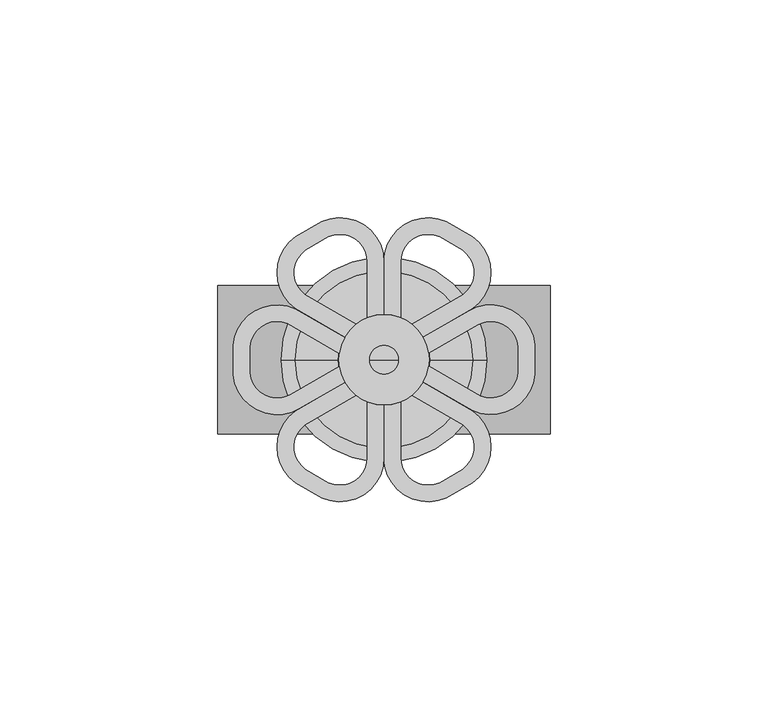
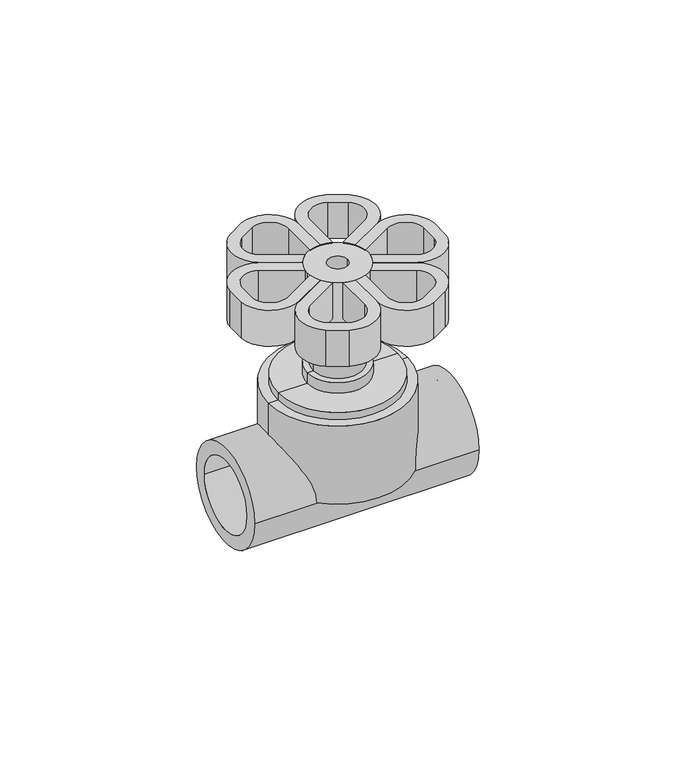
"""IFC4 building model written with IfcOpenShell, lengths in millimetres: valve geometry, Aquatherm - Screw Down Stop Globe Valve : NON-POTABLE."""

from ifc_helpers import new_model, si_unit, point, frame, origin, origin_with_axes, origin_2d, place, context, project, spatial, polyline, circle_curve, trimmed, segment, composite_curve, outline, extrude, source, transform, mapped, element, save
from ifc_brep_helpers import plane_surface, cylinder_surface, revolved_surface, advanced_brep


def valve_d248e69b(model_context):
    return source(origin(), model_context, "Body", "SolidModel", [
        advanced_brep(
        [(19.445201, 11.226692, 57.15), (34.6099022, 3.4437403, 57.15), (34.6331331, -3.4380483, 57.15), (20.3544492, -11.6772462, 57.15), (9.0506259, -5.1509807, 57.15), (10.3130833, -1.4804518, 57.15), (22.0748393, -8.2711048, 57.15), (30.8247999, -3.0585974, 57.15), (30.8433147, 3.0701977, 57.15), (21.350201, 7.9271352, 57.15), (10.2985375, 1.5464544, 57.15), (9.0187886, 5.207, 57.15), (19.445201, 11.226692, 70.104), (9.0187886, 5.207, 70.104), (10.2985375, 1.5464544, 70.104), (21.350201, 7.9271352, 70.104), (30.8185012, 3.0677369, 70.104), (30.8419054, -3.0603017, 70.104), (22.0748393, -8.2711048, 70.104), (10.3130833, -1.4804518, 70.104), (9.0506259, -5.1509807, 70.104), (20.3544492, -11.6772462, 70.104), (34.6160276, -3.436344, 70.104), (34.6347157, 3.4462011, 70.104)],
        [
            (0, 1, circle_curve(frame((24.5166058, 2.4427611, 57.15), z_axis=(0.0, 0.0, -1.0), x_axis=(0.5000000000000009, -0.8660254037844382, 0.0)), 10.1428098)),
            (1, 2, circle_curve(frame((0.0065867, 0.0120369, 57.15), z_axis=(0.0, 0.0, -1.0), x_axis=(0.5000000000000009, -0.8660254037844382, 0.0)), 34.798)),
            (2, 3, circle_curve(frame((24.5231925, -2.4307241, 57.15), z_axis=(0.0, 0.0, -1.0), x_axis=(0.5000000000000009, -0.8660254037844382, 0.0)), 10.1428098)),
            (3, 4),
            (4, 5, circle_curve(frame((0.0065867, 0.0120369, 57.15), z_axis=(0.0, 0.0, 1.0), x_axis=(0.48061422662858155, 0.876932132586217, 0.0)), 10.414)),
            (5, 6),
            (6, 7, circle_curve(frame((24.5231925, -2.4307241, 57.15), z_axis=(0.0, 0.0, 1.0), x_axis=(0.5000000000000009, -0.8660254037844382, 0.0)), 6.3328098)),
            (7, 8, circle_curve(frame((0.0065867, 0.0120369, 57.15), z_axis=(0.0, 0.0, 1.0), x_axis=(0.5000000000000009, -0.8660254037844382, 0.0)), 30.988)),
            (8, 9, circle_curve(frame((24.5166058, 2.4427611, 57.15), z_axis=(0.0, 0.0, 1.0), x_axis=(0.5000000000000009, -0.8660254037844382, 0.0)), 6.3328098)),
            (9, 10),
            (10, 11, circle_curve(frame((0.0, 0.0, 57.15), z_axis=(0.0, 0.0, 1.0), x_axis=(0.5000000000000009, -0.8660254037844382, 0.0)), 10.414)),
            (11, 0),
            (12, 13),
            (13, 14, circle_curve(frame((0.0, 0.0, 70.104), z_axis=(0.0, 0.0, -1.0), x_axis=(0.5000000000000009, -0.8660254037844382, 0.0)), 10.414)),
            (14, 15),
            (15, 16, circle_curve(frame((24.5166058, 2.4427611, 70.104), z_axis=(0.0, 0.0, -1.0), x_axis=(0.5000000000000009, -0.8660254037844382, 0.0)), 6.3328098)),
            (16, 17, circle_curve(frame((0.0065867, 0.0120369, 70.104), z_axis=(0.0, 0.0, -1.0), x_axis=(0.5000000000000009, -0.8660254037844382, 0.0)), 30.988)),
            (17, 18, circle_curve(frame((24.5231925, -2.4307241, 70.104), z_axis=(0.0, 0.0, -1.0), x_axis=(0.5000000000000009, -0.8660254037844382, 0.0)), 6.3328098)),
            (18, 19),
            (19, 20, circle_curve(frame((0.0065867, 0.0120369, 70.104), z_axis=(0.0, 0.0, -1.0), x_axis=(0.48061422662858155, 0.876932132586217, 0.0)), 10.414)),
            (20, 21),
            (21, 22, circle_curve(frame((24.5231925, -2.4307241, 70.104), z_axis=(0.0, 0.0, 1.0), x_axis=(0.5000000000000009, -0.8660254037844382, 0.0)), 10.1428098)),
            (22, 23, circle_curve(frame((0.0065867, 0.0120369, 70.104), z_axis=(0.0, 0.0, 1.0), x_axis=(0.5000000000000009, -0.8660254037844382, 0.0)), 34.798)),
            (23, 12, circle_curve(frame((24.5166058, 2.4427611, 70.104), z_axis=(0.0, 0.0, 1.0), x_axis=(0.5000000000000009, -0.8660254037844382, 0.0)), 10.1428098)),
            (11, 13),
            (12, 0),
            (10, 14),
            (9, 15),
            (8, 16),
            (7, 17),
            (6, 18),
            (5, 19),
            (4, 20),
            (3, 21),
            (2, 22),
            (1, 23),
        ],
        [
            plane_surface(frame((29.5880107, -6.3411699, 57.15), z_axis=(0.0, 0.0, -1.0), x_axis=(-0.8660254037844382, -0.5000000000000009, 0.0))),
            plane_surface(frame((29.5880107, -6.3411699, 70.104), z_axis=(0.0, 0.0, 1.0), x_axis=(0.8660254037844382, 0.5000000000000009, 0.0))),
            plane_surface(frame((9.0187886, 5.207, 57.15), z_axis=(-0.4999999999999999, 0.8660254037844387, 0.0), x_axis=(0.0, 0.0, 1.0))),
            revolved_surface(polyline([(5.207000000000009, -9.018788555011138, 70.104), (5.207000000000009, -9.018788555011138, 57.15)]), (0.0, 0.0, 70.104), (0.0, 0.0, 1.0)),
            plane_surface(frame((21.350201, 7.9271352, 57.15), z_axis=(0.49999999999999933, -0.8660254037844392, 0.0), x_axis=(0.0, 0.0, 1.0))),
            revolved_surface(polyline([(27.683010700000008, -3.041613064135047, 70.104), (27.683010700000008, -3.041613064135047, 57.15)]), (24.5166058, 2.4427611, 70.104), (0.0, 0.0, 1.0)),
            revolved_surface(polyline([(15.500586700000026, -26.82435831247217, 70.104), (15.500586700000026, -26.82435831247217, 57.15)]), (0.0065867, 0.0120369, 70.104), (0.0, 0.0, 1.0)),
            revolved_surface(polyline([(27.689597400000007, -7.915098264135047, 70.104), (27.689597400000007, -7.915098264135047, 57.15)]), (24.5231925, -2.4307241, 70.104), (0.0, 0.0, 1.0)),
            plane_surface(frame((10.3130833, -1.4804518, 57.15), z_axis=(0.49999999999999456, 0.8660254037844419, 0.0), x_axis=(0.0, 0.0, 1.0))),
            revolved_surface(polyline([(5.011703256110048, 9.144408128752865, 70.104), (5.011703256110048, 9.144408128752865, 57.15)]), (0.0065867, 0.0120369, 70.104), (0.0, 0.0, 1.0)),
            plane_surface(frame((20.3544492, -11.6772462, 57.15), z_axis=(-0.4999999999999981, -0.8660254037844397, 0.0), x_axis=(0.0, 0.0, 1.0))),
            cylinder_surface(frame((24.5231925, -2.4307241, 70.104), z_axis=(0.0, 0.0, -1.0), x_axis=(0.5000000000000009, -0.8660254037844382, 0.0)), 10.1428098),
            cylinder_surface(frame((0.0065867, 0.0120369, 70.104), z_axis=(0.0, 0.0, -1.0), x_axis=(0.5000000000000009, -0.8660254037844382, 0.0)), 34.798),
            cylinder_surface(frame((24.5166058, 2.4427611, 70.104), z_axis=(0.0, 0.0, -1.0), x_axis=(0.5000000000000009, -0.8660254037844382, 0.0)), 10.1428098),
        ],
        [
            (0, [[1, 2, 3, 4, 5, 6, 7, 8, 9, 10, 11, 12]]),
            (1, [[13, 14, 15, 16, 17, 18, 19, 20, 21, 22, 23, 24]]),
            (2, [[-12, 25, -13, 26]]),
            (3, [[-11, 27, -14, -25]]),
            (4, [[-10, 28, -15, -27]]),
            (5, [[-9, 29, -16, -28]]),
            (6, [[-8, 30, -17, -29]]),
            (7, [[-7, 31, -18, -30]]),
            (8, [[-6, 32, -19, -31]]),
            (9, [[-5, 33, -20, -32]]),
            (10, [[-4, 34, -21, -33]]),
            (11, [[-3, 35, -22, -34]]),
            (12, [[-2, 36, -23, -35]]),
            (13, [[-1, -26, -24, -36]]),
        ],
    ),
        advanced_brep(
        [(-19.445201, -11.226692, 57.15), (-34.6099022, -3.4437403, 57.15), (-34.6331331, 3.4380483, 57.15), (-20.3544492, 11.6772462, 57.15), (-9.0506259, 5.1509807, 57.15), (-10.3130833, 1.4804518, 57.15), (-22.0748393, 8.2711048, 57.15), (-30.8247999, 3.0585974, 57.15), (-30.8433147, -3.0701977, 57.15), (-21.350201, -7.9271352, 57.15), (-10.2985375, -1.5464544, 57.15), (-9.0187886, -5.207, 57.15), (-19.445201, -11.226692, 70.104), (-9.0187886, -5.207, 70.104), (-10.2985375, -1.5464544, 70.104), (-21.350201, -7.9271352, 70.104), (-30.8185012, -3.0677369, 70.104), (-30.8419054, 3.0603017, 70.104), (-22.0748393, 8.2711048, 70.104), (-10.3130833, 1.4804518, 70.104), (-9.0506259, 5.1509807, 70.104), (-20.3544492, 11.6772462, 70.104), (-34.6160276, 3.436344, 70.104), (-34.6347157, -3.4462011, 70.104)],
        [
            (0, 1, circle_curve(frame((-24.5166058, -2.4427611, 57.15), z_axis=(0.0, 0.0, -1.0), x_axis=(-0.5000000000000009, 0.8660254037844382, 0.0)), 10.1428098)),
            (1, 2, circle_curve(frame((-0.0065867, -0.0120369, 57.15), z_axis=(0.0, 0.0, -1.0), x_axis=(-0.5000000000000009, 0.8660254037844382, 0.0)), 34.798)),
            (2, 3, circle_curve(frame((-24.5231925, 2.4307241, 57.15), z_axis=(0.0, 0.0, -1.0), x_axis=(-0.5000000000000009, 0.8660254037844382, 0.0)), 10.1428098)),
            (3, 4),
            (4, 5, circle_curve(frame((-0.0065867, -0.0120369, 57.15), z_axis=(0.0, 0.0, 1.0), x_axis=(-0.48061422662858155, -0.876932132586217, 0.0)), 10.414)),
            (5, 6),
            (6, 7, circle_curve(frame((-24.5231925, 2.4307241, 57.15), z_axis=(0.0, 0.0, 1.0), x_axis=(-0.5000000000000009, 0.8660254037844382, 0.0)), 6.3328098)),
            (7, 8, circle_curve(frame((-0.0065867, -0.0120369, 57.15), z_axis=(0.0, 0.0, 1.0), x_axis=(-0.5000000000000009, 0.8660254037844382, 0.0)), 30.988)),
            (8, 9, circle_curve(frame((-24.5166058, -2.4427611, 57.15), z_axis=(0.0, 0.0, 1.0), x_axis=(-0.5000000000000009, 0.8660254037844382, 0.0)), 6.3328098)),
            (9, 10),
            (10, 11, circle_curve(frame((0.0, 0.0, 57.15), z_axis=(0.0, 0.0, 1.0), x_axis=(-0.5000000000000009, 0.8660254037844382, 0.0)), 10.414)),
            (11, 0),
            (12, 13),
            (13, 14, circle_curve(frame((0.0, 0.0, 70.104), z_axis=(0.0, 0.0, -1.0), x_axis=(-0.5000000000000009, 0.8660254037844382, 0.0)), 10.414)),
            (14, 15),
            (15, 16, circle_curve(frame((-24.5166058, -2.4427611, 70.104), z_axis=(0.0, 0.0, -1.0), x_axis=(-0.5000000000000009, 0.8660254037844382, 0.0)), 6.3328098)),
            (16, 17, circle_curve(frame((-0.0065867, -0.0120369, 70.104), z_axis=(0.0, 0.0, -1.0), x_axis=(-0.5000000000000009, 0.8660254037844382, 0.0)), 30.988)),
            (17, 18, circle_curve(frame((-24.5231925, 2.4307241, 70.104), z_axis=(0.0, 0.0, -1.0), x_axis=(-0.5000000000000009, 0.8660254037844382, 0.0)), 6.3328098)),
            (18, 19),
            (19, 20, circle_curve(frame((-0.0065867, -0.0120369, 70.104), z_axis=(0.0, 0.0, -1.0), x_axis=(-0.48061422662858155, -0.876932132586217, 0.0)), 10.414)),
            (20, 21),
            (21, 22, circle_curve(frame((-24.5231925, 2.4307241, 70.104), z_axis=(0.0, 0.0, 1.0), x_axis=(-0.5000000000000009, 0.8660254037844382, 0.0)), 10.1428098)),
            (22, 23, circle_curve(frame((-0.0065867, -0.0120369, 70.104), z_axis=(0.0, 0.0, 1.0), x_axis=(-0.5000000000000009, 0.8660254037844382, 0.0)), 34.798)),
            (23, 12, circle_curve(frame((-24.5166058, -2.4427611, 70.104), z_axis=(0.0, 0.0, 1.0), x_axis=(-0.5000000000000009, 0.8660254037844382, 0.0)), 10.1428098)),
            (0, 12),
            (23, 1),
            (22, 2),
            (21, 3),
            (20, 4),
            (19, 5),
            (18, 6),
            (17, 7),
            (16, 8),
            (15, 9),
            (14, 10),
            (13, 11),
        ],
        [
            plane_surface(frame((-29.5880107, 6.3411699, 57.15), z_axis=(0.0, 0.0, -1.0), x_axis=(0.8660254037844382, 0.5000000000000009, 0.0))),
            plane_surface(frame((-29.5880107, 6.3411699, 70.104), z_axis=(0.0, 0.0, 1.0), x_axis=(-0.8660254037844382, -0.5000000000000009, 0.0))),
            cylinder_surface(frame((-24.5166058, -2.4427611, 70.104), z_axis=(0.0, 0.0, -1.0), x_axis=(-0.5000000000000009, 0.8660254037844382, 0.0)), 10.1428098),
            cylinder_surface(frame((-0.0065867, -0.0120369, 70.104), z_axis=(0.0, 0.0, -1.0), x_axis=(-0.5000000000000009, 0.8660254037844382, 0.0)), 34.798),
            cylinder_surface(frame((-24.5231925, 2.4307241, 70.104), z_axis=(0.0, 0.0, -1.0), x_axis=(-0.5000000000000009, 0.8660254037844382, 0.0)), 10.1428098),
            plane_surface(frame((-20.3544492, 11.6772462, 57.15), z_axis=(0.4999999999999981, 0.8660254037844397, 0.0), x_axis=(0.0, 0.0, 1.0))),
            revolved_surface(polyline([(-5.011703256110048, -9.144408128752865, 70.104), (-5.011703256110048, -9.144408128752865, 57.15)]), (-0.0065867, -0.0120369, 70.104), (0.0, 0.0, 1.0)),
            plane_surface(frame((-10.3130833, 1.4804518, 57.15), z_axis=(-0.49999999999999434, -0.8660254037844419, 0.0), x_axis=(0.0, 0.0, 1.0))),
            revolved_surface(polyline([(-27.689597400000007, 7.915098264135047, 70.104), (-27.689597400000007, 7.915098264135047, 57.15)]), (-24.5231925, 2.4307241, 70.104), (0.0, 0.0, 1.0)),
            revolved_surface(polyline([(-15.500586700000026, 26.82435831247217, 70.104), (-15.500586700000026, 26.82435831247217, 57.15)]), (-0.0065867, -0.0120369, 70.104), (0.0, 0.0, 1.0)),
            revolved_surface(polyline([(-27.683010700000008, 3.041613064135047, 70.104), (-27.683010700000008, 3.041613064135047, 57.15)]), (-24.5166058, -2.4427611, 70.104), (0.0, 0.0, 1.0)),
            plane_surface(frame((-21.350201, -7.9271352, 57.15), z_axis=(-0.49999999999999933, 0.866025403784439, 0.0), x_axis=(0.0, 0.0, 1.0))),
            revolved_surface(polyline([(-5.207000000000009, 9.018788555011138, 70.104), (-5.207000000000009, 9.018788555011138, 57.15)]), (0.0, 0.0, 70.104), (0.0, 0.0, 1.0)),
            plane_surface(frame((-9.0187886, -5.207, 57.15), z_axis=(0.49999999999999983, -0.8660254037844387, 0.0), x_axis=(0.0, 0.0, 1.0))),
        ],
        [
            (0, [[1, 2, 3, 4, 5, 6, 7, 8, 9, 10, 11, 12]]),
            (1, [[13, 14, 15, 16, 17, 18, 19, 20, 21, 22, 23, 24]]),
            (2, [[-1, 25, -24, 26]]),
            (3, [[-2, -26, -23, 27]]),
            (4, [[-3, -27, -22, 28]]),
            (5, [[-4, -28, -21, 29]]),
            (6, [[-5, -29, -20, 30]]),
            (7, [[-6, -30, -19, 31]]),
            (8, [[-7, -31, -18, 32]]),
            (9, [[-8, -32, -17, 33]]),
            (10, [[-9, -33, -16, 34]]),
            (11, [[-10, -34, -15, 35]]),
            (12, [[-11, -35, -14, 36]]),
            (13, [[-12, -36, -13, -25]]),
        ],
    ),
        advanced_brep(
        [(0.0, 22.453384, 57.15), (0.0, 10.414, 57.15), (-3.81, 9.6920223, 57.15), (-3.81, 22.453384, 57.15), (-12.7525125, 28.2234734, 57.15), (-18.0712517, 25.1797227, 57.15), (-18.2004066, 14.9818193, 57.15), (-6.4386506, 8.1911663, 57.15), (-8.9861931, 5.2625816, 57.15), (-20.2900164, 11.788847, 57.15), (-20.2839749, 28.2601873, 57.15), (-14.3328602, 31.7176442, 57.15), (0.0, 22.453384, 70.104), (-14.3225845, 31.6949246, 70.104), (-20.2940037, 28.2741489, 70.104), (-20.2900164, 11.788847, 70.104), (-8.9861931, 5.2625816, 70.104), (-6.4386506, 8.1911663, 70.104), (-18.2004066, 14.9818193, 70.104), (-18.061223, 25.165761, 70.104), (-12.7627882, 28.246193, 70.104), (-3.81, 22.453384, 70.104), (-3.81, 9.6920223, 70.104), (0.0, 10.414, 70.104)],
        [
            (0, 1),
            (1, 2, circle_curve(frame((0.0, 0.0, 57.15), z_axis=(0.0, 0.0, 1.0), x_axis=(-1.0, 0.0, 0.0)), 10.414)),
            (2, 3),
            (3, 4, circle_curve(frame((-10.1428098, 22.453384, 57.15), z_axis=(0.0, 0.0, 1.0), x_axis=(-1.0, 0.0, 0.0)), 6.3328098)),
            (4, 5, circle_curve(frame((0.0071309, 0.0117227, 57.15), z_axis=(0.0, 0.0, 1.0), x_axis=(-1.0, 0.0, 0.0)), 30.988)),
            (5, 6, circle_curve(frame((-14.3666651, 20.0223456, 57.15), z_axis=(0.0, 0.0, 1.0), x_axis=(-1.0, 0.0, 0.0)), 6.3328098)),
            (6, 7),
            (7, 8, circle_curve(frame((0.0071309, 0.0117227, 57.15), z_axis=(0.0, 0.0, 1.0), x_axis=(0.519138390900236, 0.8546901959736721, 0.0)), 10.414)),
            (8, 9),
            (9, 10, circle_curve(frame((-14.3666651, 20.0223456, 57.15), z_axis=(0.0, 0.0, -1.0), x_axis=(-1.0, 0.0, 0.0)), 10.1428098)),
            (10, 11, circle_curve(frame((0.0071309, 0.0117227, 57.15), z_axis=(0.0, 0.0, -1.0), x_axis=(-1.0, 0.0, 0.0)), 34.798)),
            (11, 0, circle_curve(frame((-10.1428098, 22.453384, 57.15), z_axis=(0.0, 0.0, -1.0), x_axis=(-1.0, 0.0, 0.0)), 10.1428098)),
            (12, 13, circle_curve(frame((-10.1428098, 22.453384, 70.104), z_axis=(0.0, 0.0, 1.0), x_axis=(-1.0, 0.0, 0.0)), 10.1428098)),
            (13, 14, circle_curve(frame((0.0071309, 0.0117227, 70.104), z_axis=(0.0, 0.0, 1.0), x_axis=(-1.0, 0.0, 0.0)), 34.798)),
            (14, 15, circle_curve(frame((-14.3666651, 20.0223456, 70.104), z_axis=(0.0, 0.0, 1.0), x_axis=(-1.0, 0.0, 0.0)), 10.1428098)),
            (15, 16),
            (16, 17, circle_curve(frame((0.0071309, 0.0117227, 70.104), z_axis=(0.0, 0.0, -1.0), x_axis=(0.519138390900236, 0.8546901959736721, 0.0)), 10.414)),
            (17, 18),
            (18, 19, circle_curve(frame((-14.3666651, 20.0223456, 70.104), z_axis=(0.0, 0.0, -1.0), x_axis=(-1.0, 0.0, 0.0)), 6.3328098)),
            (19, 20, circle_curve(frame((0.0071309, 0.0117227, 70.104), z_axis=(0.0, 0.0, -1.0), x_axis=(-1.0, 0.0, 0.0)), 30.988)),
            (20, 21, circle_curve(frame((-10.1428098, 22.453384, 70.104), z_axis=(0.0, 0.0, -1.0), x_axis=(-1.0, 0.0, 0.0)), 6.3328098)),
            (21, 22),
            (22, 23, circle_curve(frame((0.0, 0.0, 70.104), z_axis=(0.0, 0.0, -1.0), x_axis=(-1.0, 0.0, 0.0)), 10.414)),
            (23, 12),
            (11, 13),
            (12, 0),
            (10, 14),
            (9, 15),
            (8, 16),
            (7, 17),
            (6, 18),
            (5, 19),
            (4, 20),
            (3, 21),
            (2, 22),
            (1, 23),
        ],
        [
            plane_surface(frame((0.0, 8.255, 57.15), z_axis=(0.0, 0.0, -1.0), x_axis=(0.0, -1.0, 0.0))),
            plane_surface(frame((0.0, 8.255, 70.104), z_axis=(0.0, 0.0, 1.0), x_axis=(0.0, 1.0, 0.0))),
            cylinder_surface(frame((-10.1428098, 22.453384, 70.104), z_axis=(0.0, 0.0, -1.0), x_axis=(-1.0, 0.0, 0.0)), 10.1428098),
            cylinder_surface(frame((0.0071309, 0.0117227, 70.104), z_axis=(0.0, 0.0, -1.0), x_axis=(-1.0, 0.0, 0.0)), 34.798),
            cylinder_surface(frame((-14.3666651, 20.0223456, 70.104), z_axis=(0.0, 0.0, -1.0), x_axis=(-1.0, 0.0, 0.0)), 10.1428098),
            plane_surface(frame((-8.9861931, 5.2625816, 57.15), z_axis=(-0.5000000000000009, -0.8660254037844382, 0.0), x_axis=(0.0, 0.0, 1.0))),
            revolved_surface(polyline([(5.413438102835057, 8.912466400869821, 70.104), (5.413438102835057, 8.912466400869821, 57.14999999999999)]), (0.0071309, 0.0117227, 70.104), (0.0, 0.0, 1.0000000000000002)),
            plane_surface(frame((-18.2004066, 14.9818193, 57.15), z_axis=(0.5000000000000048, 0.8660254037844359, 0.0), x_axis=(0.0, 0.0, 1.0))),
            revolved_surface(polyline([(-20.6994749, 20.0223456, 70.104), (-20.6994749, 20.0223456, 57.15)]), (-14.3666651, 20.0223456, 70.104), (0.0, 0.0, 1.0)),
            revolved_surface(polyline([(-30.9808691, 0.0117227, 70.104), (-30.9808691, 0.0117227, 57.15)]), (0.0071309, 0.0117227, 70.104), (0.0, 0.0, 1.0)),
            revolved_surface(polyline([(-16.4756196, 22.453384, 70.104), (-16.4756196, 22.453384, 57.15)]), (-10.1428098, 22.453384, 70.104), (0.0, 0.0, 1.0)),
            plane_surface(frame((-3.81, 9.6920223, 57.15), z_axis=(-1.0, 0.0, 0.0), x_axis=(0.0, 0.0, 1.0))),
            revolved_surface(polyline([(-10.414, 0.0, 70.104), (-10.414, 0.0, 57.15)]), (0.0, 0.0, 70.104), (0.0, 0.0, 1.0)),
            plane_surface(frame((0.0, 22.453384, 57.15), z_axis=(1.0, 0.0, 0.0), x_axis=(0.0, 0.0, 1.0))),
        ],
        [
            (0, [[1, 2, 3, 4, 5, 6, 7, 8, 9, 10, 11, 12]]),
            (1, [[13, 14, 15, 16, 17, 18, 19, 20, 21, 22, 23, 24]]),
            (2, [[-12, 25, -13, 26]]),
            (3, [[-11, 27, -14, -25]]),
            (4, [[-10, 28, -15, -27]]),
            (5, [[-9, 29, -16, -28]]),
            (6, [[-8, 30, -17, -29]]),
            (7, [[-7, 31, -18, -30]]),
            (8, [[-6, 32, -19, -31]]),
            (9, [[-5, 33, -20, -32]]),
            (10, [[-4, 34, -21, -33]]),
            (11, [[-3, 35, -22, -34]]),
            (12, [[-2, 36, -23, -35]]),
            (13, [[-1, -26, -24, -36]]),
        ],
    ),
        advanced_brep(
        [(0.0, 22.453384, 57.15), (14.3225845, 31.6949246, 57.15), (20.2940037, 28.2741489, 57.15), (20.2900164, 11.788847, 57.15), (8.9861931, 5.2625816, 57.15), (6.4386506, 8.1911663, 57.15), (18.2004066, 14.9818193, 57.15), (18.061223, 25.165761, 57.15), (12.7627882, 28.246193, 57.15), (3.81, 22.453384, 57.15), (3.81, 9.6920223, 57.15), (0.0, 10.414, 57.15), (0.0, 22.453384, 70.104), (0.0, 10.414, 70.104), (3.81, 9.6920223, 70.104), (3.81, 22.453384, 70.104), (12.7525125, 28.2234734, 70.104), (18.0712517, 25.1797227, 70.104), (18.2004066, 14.9818193, 70.104), (6.4386506, 8.1911663, 70.104), (8.9861931, 5.2625816, 70.104), (20.2900164, 11.788847, 70.104), (20.2839749, 28.2601873, 70.104), (14.3328602, 31.7176442, 70.104)],
        [
            (0, 1, circle_curve(frame((10.1428098, 22.453384, 57.15), z_axis=(0.0, 0.0, -1.0), x_axis=(1.0, 0.0, 0.0)), 10.1428098)),
            (1, 2, circle_curve(frame((-0.0071309, 0.0117227, 57.15), z_axis=(0.0, 0.0, -1.0), x_axis=(1.0, 0.0, 0.0)), 34.798)),
            (2, 3, circle_curve(frame((14.3666651, 20.0223456, 57.15), z_axis=(0.0, 0.0, -1.0), x_axis=(1.0, 0.0, 0.0)), 10.1428098)),
            (3, 4),
            (4, 5, circle_curve(frame((-0.0071309, 0.0117227, 57.15), z_axis=(0.0, 0.0, 1.0), x_axis=(-0.519138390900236, 0.8546901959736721, 0.0)), 10.414)),
            (5, 6),
            (6, 7, circle_curve(frame((14.3666651, 20.0223456, 57.15), z_axis=(0.0, 0.0, 1.0), x_axis=(1.0, 0.0, 0.0)), 6.3328098)),
            (7, 8, circle_curve(frame((-0.0071309, 0.0117227, 57.15), z_axis=(0.0, 0.0, 1.0), x_axis=(1.0, 0.0, 0.0)), 30.988)),
            (8, 9, circle_curve(frame((10.1428098, 22.453384, 57.15), z_axis=(0.0, 0.0, 1.0), x_axis=(1.0, 0.0, 0.0)), 6.3328098)),
            (9, 10),
            (10, 11, circle_curve(frame((0.0, 0.0, 57.15), z_axis=(0.0, 0.0, 1.0), x_axis=(1.0, 0.0, 0.0)), 10.414)),
            (11, 0),
            (12, 13),
            (13, 14, circle_curve(frame((0.0, 0.0, 70.104), z_axis=(0.0, 0.0, -1.0), x_axis=(1.0, 0.0, 0.0)), 10.414)),
            (14, 15),
            (15, 16, circle_curve(frame((10.1428098, 22.453384, 70.104), z_axis=(0.0, 0.0, -1.0), x_axis=(1.0, 0.0, 0.0)), 6.3328098)),
            (16, 17, circle_curve(frame((-0.0071309, 0.0117227, 70.104), z_axis=(0.0, 0.0, -1.0), x_axis=(1.0, 0.0, 0.0)), 30.988)),
            (17, 18, circle_curve(frame((14.3666651, 20.0223456, 70.104), z_axis=(0.0, 0.0, -1.0), x_axis=(1.0, 0.0, 0.0)), 6.3328098)),
            (18, 19),
            (19, 20, circle_curve(frame((-0.0071309, 0.0117227, 70.104), z_axis=(0.0, 0.0, -1.0), x_axis=(-0.519138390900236, 0.8546901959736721, 0.0)), 10.414)),
            (20, 21),
            (21, 22, circle_curve(frame((14.3666651, 20.0223456, 70.104), z_axis=(0.0, 0.0, 1.0), x_axis=(1.0, 0.0, 0.0)), 10.1428098)),
            (22, 23, circle_curve(frame((-0.0071309, 0.0117227, 70.104), z_axis=(0.0, 0.0, 1.0), x_axis=(1.0, 0.0, 0.0)), 34.798)),
            (23, 12, circle_curve(frame((10.1428098, 22.453384, 70.104), z_axis=(0.0, 0.0, 1.0), x_axis=(1.0, 0.0, 0.0)), 10.1428098)),
            (11, 13),
            (12, 0),
            (10, 14),
            (9, 15),
            (8, 16),
            (7, 17),
            (6, 18),
            (5, 19),
            (4, 20),
            (3, 21),
            (2, 22),
            (1, 23),
        ],
        [
            plane_surface(frame((20.2856196, 22.453384, 57.15), z_axis=(0.0, 0.0, -1.0), x_axis=(0.0, -1.0, 0.0))),
            plane_surface(frame((20.2856196, 22.453384, 70.104), z_axis=(0.0, 0.0, 1.0), x_axis=(0.0, 1.0, 0.0))),
            plane_surface(frame((0.0, 10.414, 57.15), z_axis=(-1.0, 0.0, 0.0), x_axis=(0.0, 0.0, 1.0))),
            revolved_surface(polyline([(10.414, 0.0, 70.104), (10.414, 0.0, 57.15)]), (0.0, 0.0, 70.104), (0.0, 0.0, 1.0)),
            plane_surface(frame((3.81, 22.453384, 57.15), z_axis=(1.0, 0.0, 0.0), x_axis=(0.0, 0.0, 1.0))),
            revolved_surface(polyline([(16.4756196, 22.453384, 70.104), (16.4756196, 22.453384, 57.15)]), (10.1428098, 22.453384, 70.104), (0.0, 0.0, 1.0)),
            revolved_surface(polyline([(30.9808691, 0.0117227, 70.104), (30.9808691, 0.0117227, 57.15)]), (-0.0071309, 0.0117227, 70.104), (0.0, 0.0, 1.0)),
            revolved_surface(polyline([(20.6994749, 20.0223456, 70.104), (20.6994749, 20.0223456, 57.15)]), (14.3666651, 20.0223456, 70.104), (0.0, 0.0, 1.0)),
            plane_surface(frame((6.4386506, 8.1911663, 57.15), z_axis=(-0.5000000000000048, 0.8660254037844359, 0.0), x_axis=(0.0, 0.0, 1.0))),
            revolved_surface(polyline([(-5.413438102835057, 8.912466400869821, 70.104), (-5.413438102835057, 8.912466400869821, 57.14999999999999)]), (-0.0071309, 0.0117227, 70.104), (0.0, 0.0, 1.0000000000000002)),
            plane_surface(frame((20.2900164, 11.788847, 57.15), z_axis=(0.500000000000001, -0.866025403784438, 0.0), x_axis=(0.0, 0.0, 1.0))),
            cylinder_surface(frame((14.3666651, 20.0223456, 70.104), z_axis=(0.0, 0.0, -1.0), x_axis=(1.0, 0.0, 0.0)), 10.1428098),
            cylinder_surface(frame((-0.0071309, 0.0117227, 70.104), z_axis=(0.0, 0.0, -1.0), x_axis=(1.0, 0.0, 0.0)), 34.798),
            cylinder_surface(frame((10.1428098, 22.453384, 70.104), z_axis=(0.0, 0.0, -1.0), x_axis=(1.0, 0.0, 0.0)), 10.1428098),
        ],
        [
            (0, [[1, 2, 3, 4, 5, 6, 7, 8, 9, 10, 11, 12]]),
            (1, [[13, 14, 15, 16, 17, 18, 19, 20, 21, 22, 23, 24]]),
            (2, [[-12, 25, -13, 26]]),
            (3, [[-11, 27, -14, -25]]),
            (4, [[-10, 28, -15, -27]]),
            (5, [[-9, 29, -16, -28]]),
            (6, [[-8, 30, -17, -29]]),
            (7, [[-7, 31, -18, -30]]),
            (8, [[-6, 32, -19, -31]]),
            (9, [[-5, 33, -20, -32]]),
            (10, [[-4, 34, -21, -33]]),
            (11, [[-3, 35, -22, -34]]),
            (12, [[-2, 36, -23, -35]]),
            (13, [[-1, -26, -24, -36]]),
        ],
    ),
        advanced_brep(
        [(0.0, -22.453384, 57.15), (-14.3225845, -31.6949246, 57.15), (-20.2940037, -28.2741489, 57.15), (-20.2900164, -11.788847, 57.15), (-8.9861931, -5.2625816, 57.15), (-6.4386506, -8.1911663, 57.15), (-18.2004066, -14.9818193, 57.15), (-18.061223, -25.165761, 57.15), (-12.7627882, -28.246193, 57.15), (-3.81, -22.453384, 57.15), (-3.81, -9.6920223, 57.15), (0.0, -10.414, 57.15), (0.0, -22.453384, 70.104), (0.0, -10.414, 70.104), (-3.81, -9.6920223, 70.104), (-3.81, -22.453384, 70.104), (-12.7525125, -28.2234734, 70.104), (-18.0712517, -25.1797227, 70.104), (-18.2004066, -14.9818193, 70.104), (-6.4386506, -8.1911663, 70.104), (-8.9861931, -5.2625816, 70.104), (-20.2900164, -11.788847, 70.104), (-20.2839749, -28.2601873, 70.104), (-14.3328602, -31.7176442, 70.104)],
        [
            (0, 1, circle_curve(frame((-10.1428098, -22.453384, 57.15), z_axis=(0.0, 0.0, -1.0), x_axis=(-1.0, 0.0, 0.0)), 10.1428098)),
            (1, 2, circle_curve(frame((0.0071309, -0.0117227, 57.15), z_axis=(0.0, 0.0, -1.0), x_axis=(-1.0, 0.0, 0.0)), 34.798)),
            (2, 3, circle_curve(frame((-14.3666651, -20.0223456, 57.15), z_axis=(0.0, 0.0, -1.0), x_axis=(-1.0, 0.0, 0.0)), 10.1428098)),
            (3, 4),
            (4, 5, circle_curve(frame((0.0071309, -0.0117227, 57.15), z_axis=(0.0, 0.0, 1.0), x_axis=(0.519138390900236, -0.8546901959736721, 0.0)), 10.414)),
            (5, 6),
            (6, 7, circle_curve(frame((-14.3666651, -20.0223456, 57.15), z_axis=(0.0, 0.0, 1.0), x_axis=(-1.0, 0.0, 0.0)), 6.3328098)),
            (7, 8, circle_curve(frame((0.0071309, -0.0117227, 57.15), z_axis=(0.0, 0.0, 1.0), x_axis=(-1.0, 0.0, 0.0)), 30.988)),
            (8, 9, circle_curve(frame((-10.1428098, -22.453384, 57.15), z_axis=(0.0, 0.0, 1.0), x_axis=(-1.0, 0.0, 0.0)), 6.3328098)),
            (9, 10),
            (10, 11, circle_curve(frame((0.0, 0.0, 57.15), z_axis=(0.0, 0.0, 1.0), x_axis=(-1.0, 0.0, 0.0)), 10.414)),
            (11, 0),
            (12, 13),
            (13, 14, circle_curve(frame((0.0, 0.0, 70.104), z_axis=(0.0, 0.0, -1.0), x_axis=(-1.0, 0.0, 0.0)), 10.414)),
            (14, 15),
            (15, 16, circle_curve(frame((-10.1428098, -22.453384, 70.104), z_axis=(0.0, 0.0, -1.0), x_axis=(-1.0, 0.0, 0.0)), 6.3328098)),
            (16, 17, circle_curve(frame((0.0071309, -0.0117227, 70.104), z_axis=(0.0, 0.0, -1.0), x_axis=(-1.0, 0.0, 0.0)), 30.988)),
            (17, 18, circle_curve(frame((-14.3666651, -20.0223456, 70.104), z_axis=(0.0, 0.0, -1.0), x_axis=(-1.0, 0.0, 0.0)), 6.3328098)),
            (18, 19),
            (19, 20, circle_curve(frame((0.0071309, -0.0117227, 70.104), z_axis=(0.0, 0.0, -1.0), x_axis=(0.519138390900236, -0.8546901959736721, 0.0)), 10.414)),
            (20, 21),
            (21, 22, circle_curve(frame((-14.3666651, -20.0223456, 70.104), z_axis=(0.0, 0.0, 1.0), x_axis=(-1.0, 0.0, 0.0)), 10.1428098)),
            (22, 23, circle_curve(frame((0.0071309, -0.0117227, 70.104), z_axis=(0.0, 0.0, 1.0), x_axis=(-1.0, 0.0, 0.0)), 34.798)),
            (23, 12, circle_curve(frame((-10.1428098, -22.453384, 70.104), z_axis=(0.0, 0.0, 1.0), x_axis=(-1.0, 0.0, 0.0)), 10.1428098)),
            (0, 12),
            (23, 1),
            (22, 2),
            (21, 3),
            (20, 4),
            (19, 5),
            (18, 6),
            (17, 7),
            (16, 8),
            (15, 9),
            (14, 10),
            (13, 11),
        ],
        [
            plane_surface(frame((-20.2856196, -22.453384, 57.15), z_axis=(0.0, 0.0, -1.0), x_axis=(0.0, 1.0, 0.0))),
            plane_surface(frame((-20.2856196, -22.453384, 70.104), z_axis=(0.0, 0.0, 1.0), x_axis=(0.0, -1.0, 0.0))),
            cylinder_surface(frame((-10.1428098, -22.453384, 70.104), z_axis=(0.0, 0.0, -1.0), x_axis=(-1.0, 0.0, 0.0)), 10.1428098),
            cylinder_surface(frame((0.0071309, -0.0117227, 70.104), z_axis=(0.0, 0.0, -1.0), x_axis=(-1.0, 0.0, 0.0)), 34.798),
            cylinder_surface(frame((-14.3666651, -20.0223456, 70.104), z_axis=(0.0, 0.0, -1.0), x_axis=(-1.0, 0.0, 0.0)), 10.1428098),
            plane_surface(frame((-20.2900164, -11.788847, 57.15), z_axis=(-0.500000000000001, 0.866025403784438, 0.0), x_axis=(0.0, 0.0, 1.0))),
            revolved_surface(polyline([(5.413438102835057, -8.912466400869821, 70.104), (5.413438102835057, -8.912466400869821, 57.14999999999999)]), (0.0071309, -0.0117227, 70.104), (0.0, 0.0, 1.0000000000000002)),
            plane_surface(frame((-6.4386506, -8.1911663, 57.15), z_axis=(0.5000000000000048, -0.8660254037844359, 0.0), x_axis=(0.0, 0.0, 1.0))),
            revolved_surface(polyline([(-20.6994749, -20.0223456, 70.104), (-20.6994749, -20.0223456, 57.15)]), (-14.3666651, -20.0223456, 70.104), (0.0, 0.0, 1.0)),
            revolved_surface(polyline([(-30.9808691, -0.0117227, 70.104), (-30.9808691, -0.0117227, 57.15)]), (0.0071309, -0.0117227, 70.104), (0.0, 0.0, 1.0)),
            revolved_surface(polyline([(-16.4756196, -22.453384, 70.104), (-16.4756196, -22.453384, 57.15)]), (-10.1428098, -22.453384, 70.104), (0.0, 0.0, 1.0)),
            plane_surface(frame((-3.81, -22.453384, 57.15), z_axis=(-1.0, 0.0, 0.0), x_axis=(0.0, 0.0, 1.0))),
            revolved_surface(polyline([(-10.414, 0.0, 70.104), (-10.414, 0.0, 57.15)]), (0.0, 0.0, 70.104), (0.0, 0.0, 1.0)),
            plane_surface(frame((0.0, -10.414, 57.15), z_axis=(1.0, 0.0, 0.0), x_axis=(0.0, 0.0, 1.0))),
        ],
        [
            (0, [[1, 2, 3, 4, 5, 6, 7, 8, 9, 10, 11, 12]]),
            (1, [[13, 14, 15, 16, 17, 18, 19, 20, 21, 22, 23, 24]]),
            (2, [[-1, 25, -24, 26]]),
            (3, [[-2, -26, -23, 27]]),
            (4, [[-3, -27, -22, 28]]),
            (5, [[-4, -28, -21, 29]]),
            (6, [[-5, -29, -20, 30]]),
            (7, [[-6, -30, -19, 31]]),
            (8, [[-7, -31, -18, 32]]),
            (9, [[-8, -32, -17, 33]]),
            (10, [[-9, -33, -16, 34]]),
            (11, [[-10, -34, -15, 35]]),
            (12, [[-11, -35, -14, 36]]),
            (13, [[-12, -36, -13, -25]]),
        ],
    ),
        advanced_brep(
        [(0.0, -22.453384, 57.15), (0.0, -10.414, 57.15), (3.81, -9.6920223, 57.15), (3.81, -22.453384, 57.15), (12.7525125, -28.2234734, 57.15), (18.0712517, -25.1797227, 57.15), (18.2004066, -14.9818193, 57.15), (6.4386506, -8.1911663, 57.15), (8.9861931, -5.2625816, 57.15), (20.2900164, -11.788847, 57.15), (20.2839749, -28.2601873, 57.15), (14.3328602, -31.7176442, 57.15), (0.0, -22.453384, 70.104), (14.3225845, -31.6949246, 70.104), (20.2940037, -28.2741489, 70.104), (20.2900164, -11.788847, 70.104), (8.9861931, -5.2625816, 70.104), (6.4386506, -8.1911663, 70.104), (18.2004066, -14.9818193, 70.104), (18.061223, -25.165761, 70.104), (12.7627882, -28.246193, 70.104), (3.81, -22.453384, 70.104), (3.81, -9.6920223, 70.104), (0.0, -10.414, 70.104)],
        [
            (0, 1),
            (1, 2, circle_curve(frame((0.0, 0.0, 57.15), z_axis=(0.0, 0.0, 1.0), x_axis=(1.0, 0.0, 0.0)), 10.414)),
            (2, 3),
            (3, 4, circle_curve(frame((10.1428098, -22.453384, 57.15), z_axis=(0.0, 0.0, 1.0), x_axis=(1.0, 0.0, 0.0)), 6.3328098)),
            (4, 5, circle_curve(frame((-0.0071309, -0.0117227, 57.15), z_axis=(0.0, 0.0, 1.0), x_axis=(1.0, 0.0, 0.0)), 30.988)),
            (5, 6, circle_curve(frame((14.3666651, -20.0223456, 57.15), z_axis=(0.0, 0.0, 1.0), x_axis=(1.0, 0.0, 0.0)), 6.3328098)),
            (6, 7),
            (7, 8, circle_curve(frame((-0.0071309, -0.0117227, 57.15), z_axis=(0.0, 0.0, 1.0), x_axis=(-0.519138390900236, -0.8546901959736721, 0.0)), 10.414)),
            (8, 9),
            (9, 10, circle_curve(frame((14.3666651, -20.0223456, 57.15), z_axis=(0.0, 0.0, -1.0), x_axis=(1.0, 0.0, 0.0)), 10.1428098)),
            (10, 11, circle_curve(frame((-0.0071309, -0.0117227, 57.15), z_axis=(0.0, 0.0, -1.0), x_axis=(1.0, 0.0, 0.0)), 34.798)),
            (11, 0, circle_curve(frame((10.1428098, -22.453384, 57.15), z_axis=(0.0, 0.0, -1.0), x_axis=(1.0, 0.0, 0.0)), 10.1428098)),
            (12, 13, circle_curve(frame((10.1428098, -22.453384, 70.104), z_axis=(0.0, 0.0, 1.0), x_axis=(1.0, 0.0, 0.0)), 10.1428098)),
            (13, 14, circle_curve(frame((-0.0071309, -0.0117227, 70.104), z_axis=(0.0, 0.0, 1.0), x_axis=(1.0, 0.0, 0.0)), 34.798)),
            (14, 15, circle_curve(frame((14.3666651, -20.0223456, 70.104), z_axis=(0.0, 0.0, 1.0), x_axis=(1.0, 0.0, 0.0)), 10.1428098)),
            (15, 16),
            (16, 17, circle_curve(frame((-0.0071309, -0.0117227, 70.104), z_axis=(0.0, 0.0, -1.0), x_axis=(-0.519138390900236, -0.8546901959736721, 0.0)), 10.414)),
            (17, 18),
            (18, 19, circle_curve(frame((14.3666651, -20.0223456, 70.104), z_axis=(0.0, 0.0, -1.0), x_axis=(1.0, 0.0, 0.0)), 6.3328098)),
            (19, 20, circle_curve(frame((-0.0071309, -0.0117227, 70.104), z_axis=(0.0, 0.0, -1.0), x_axis=(1.0, 0.0, 0.0)), 30.988)),
            (20, 21, circle_curve(frame((10.1428098, -22.453384, 70.104), z_axis=(0.0, 0.0, -1.0), x_axis=(1.0, 0.0, 0.0)), 6.3328098)),
            (21, 22),
            (22, 23, circle_curve(frame((0.0, 0.0, 70.104), z_axis=(0.0, 0.0, -1.0), x_axis=(1.0, 0.0, 0.0)), 10.414)),
            (23, 12),
            (0, 12),
            (23, 1),
            (22, 2),
            (21, 3),
            (20, 4),
            (19, 5),
            (18, 6),
            (17, 7),
            (16, 8),
            (15, 9),
            (14, 10),
            (13, 11),
        ],
        [
            plane_surface(frame((0.0, -8.255, 57.15), z_axis=(0.0, 0.0, -1.0), x_axis=(0.0, 1.0, 0.0))),
            plane_surface(frame((0.0, -8.255, 70.104), z_axis=(0.0, 0.0, 1.0), x_axis=(0.0, -1.0, 0.0))),
            plane_surface(frame((0.0, -22.453384, 57.15), z_axis=(-1.0, 0.0, 0.0), x_axis=(0.0, 0.0, 1.0))),
            revolved_surface(polyline([(10.414, 0.0, 70.104), (10.414, 0.0, 57.15)]), (0.0, 0.0, 70.104), (0.0, 0.0, 1.0)),
            plane_surface(frame((3.81, -9.6920223, 57.15), z_axis=(1.0, 0.0, 0.0), x_axis=(0.0, 0.0, 1.0))),
            revolved_surface(polyline([(16.4756196, -22.453384, 70.104), (16.4756196, -22.453384, 57.15)]), (10.1428098, -22.453384, 70.104), (0.0, 0.0, 1.0)),
            revolved_surface(polyline([(30.9808691, -0.0117227, 70.104), (30.9808691, -0.0117227, 57.15)]), (-0.0071309, -0.0117227, 70.104), (0.0, 0.0, 1.0)),
            revolved_surface(polyline([(20.6994749, -20.0223456, 70.104), (20.6994749, -20.0223456, 57.15)]), (14.3666651, -20.0223456, 70.104), (0.0, 0.0, 1.0)),
            plane_surface(frame((18.2004066, -14.9818193, 57.15), z_axis=(-0.5000000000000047, -0.866025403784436, 0.0), x_axis=(0.0, 0.0, 1.0))),
            revolved_surface(polyline([(-5.413438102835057, -8.912466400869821, 70.104), (-5.413438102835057, -8.912466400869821, 57.14999999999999)]), (-0.0071309, -0.0117227, 70.104), (0.0, 0.0, 1.0000000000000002)),
            plane_surface(frame((8.9861931, -5.2625816, 57.15), z_axis=(0.5000000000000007, 0.8660254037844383, 0.0), x_axis=(0.0, 0.0, 1.0))),
            cylinder_surface(frame((14.3666651, -20.0223456, 70.104), z_axis=(0.0, 0.0, -1.0), x_axis=(1.0, 0.0, 0.0)), 10.1428098),
            cylinder_surface(frame((-0.0071309, -0.0117227, 70.104), z_axis=(0.0, 0.0, -1.0), x_axis=(1.0, 0.0, 0.0)), 34.798),
            cylinder_surface(frame((10.1428098, -22.453384, 70.104), z_axis=(0.0, 0.0, -1.0), x_axis=(1.0, 0.0, 0.0)), 10.1428098),
        ],
        [
            (0, [[1, 2, 3, 4, 5, 6, 7, 8, 9, 10, 11, 12]]),
            (1, [[13, 14, 15, 16, 17, 18, 19, 20, 21, 22, 23, 24]]),
            (2, [[-1, 25, -24, 26]]),
            (3, [[-2, -26, -23, 27]]),
            (4, [[-3, -27, -22, 28]]),
            (5, [[-4, -28, -21, 29]]),
            (6, [[-5, -29, -20, 30]]),
            (7, [[-6, -30, -19, 31]]),
            (8, [[-7, -31, -18, 32]]),
            (9, [[-8, -32, -17, 33]]),
            (10, [[-9, -33, -16, 34]]),
            (11, [[-10, -34, -15, 35]]),
            (12, [[-11, -35, -14, 36]]),
            (13, [[-12, -36, -13, -25]]),
        ],
    ),
        extrude(outline(composite_curve([segment(trimmed(circle_curve(origin_2d(), 10.414), [point((-10.414, 0.0))], [point((10.414, 0.0))], False, "CARTESIAN"), True, "CONTINUOUS"), segment(trimmed(circle_curve(origin_2d(), 10.414), [point((10.414, 0.0))], [point((-10.414, 0.0))], False, "CARTESIAN"), True, "CONTINUOUS")], self_intersect=False), holes=[composite_curve([segment(trimmed(circle_curve(origin_2d(), 3.302), [point((-3.302, 0.0))], [point((3.302, 0.0))], True, "CARTESIAN"), True, "CONTINUOUS"), segment(trimmed(circle_curve(origin_2d(), 3.302), [point((3.302, 0.0))], [point((-3.302, 0.0))], True, "CARTESIAN"), True, "CONTINUOUS")], self_intersect=False)]), frame((0.0, 0.0, 55.118), z_axis=(0.0, 0.0, 1.0), x_axis=(1.0, 0.0, 0.0)), (0.0, 0.0, 1.0), 14.986),
        advanced_brep(
        [(-20.32, 0.0, 30.48), (20.32, 0.0, 30.48), (20.32, 0.0, 27.94), (-20.32, 0.0, 27.94), (-10.445896, 0.0, 30.48), (10.445896, 0.0, 30.48), (-10.445896, 0.0, 34.29), (10.445896, 0.0, 34.29), (-8.413896, 0.0, 34.29), (8.413896, 0.0, 34.29), (-8.413896, 0.0, 48.26), (8.413896, 0.0, 48.26), (-5.619896, 0.0, 48.26), (5.619896, 0.0, 48.26), (-5.619896, 0.0, 55.118), (5.619896, 0.0, 55.118), (0.0, 0.0, 55.118), (0.0, 0.0, 27.94)],
        [
            (0, 1, circle_curve(frame((0.0, 0.0, 30.48), z_axis=(0.0, 0.0, -1.0), x_axis=(1.0, 0.0, 0.0)), 20.32)),
            (1, 2),
            (2, 3, circle_curve(frame((0.0, 0.0, 27.94), z_axis=(0.0, 0.0, 1.0), x_axis=(1.0, 0.0, 0.0)), 20.32)),
            (3, 0),
            (1, 0, circle_curve(frame((0.0, 0.0, 30.48), z_axis=(0.0, 0.0, -1.0), x_axis=(1.0, 0.0, 0.0)), 20.32)),
            (3, 2, circle_curve(frame((0.0, 0.0, 27.94), z_axis=(0.0, 0.0, 1.0), x_axis=(1.0, 0.0, 0.0)), 20.32)),
            (4, 5, circle_curve(frame((0.0, 0.0, 30.48), z_axis=(0.0, 0.0, -1.0), x_axis=(1.0, 0.0, 0.0)), 10.445896)),
            (5, 1),
            (0, 4),
            (5, 4, circle_curve(frame((0.0, 0.0, 30.48), z_axis=(0.0, 0.0, -1.0), x_axis=(1.0, 0.0, 0.0)), 10.445896)),
            (6, 7, circle_curve(frame((0.0, 0.0, 34.29), z_axis=(0.0, 0.0, -1.0), x_axis=(1.0, 0.0, 0.0)), 10.445896)),
            (7, 5),
            (4, 6),
            (7, 6, circle_curve(frame((0.0, 0.0, 34.29), z_axis=(0.0, 0.0, -1.0), x_axis=(1.0, 0.0, 0.0)), 10.445896)),
            (8, 9, circle_curve(frame((0.0, 0.0, 34.29), z_axis=(0.0, 0.0, -1.0), x_axis=(1.0, 0.0, 0.0)), 8.413896)),
            (9, 7),
            (6, 8),
            (9, 8, circle_curve(frame((0.0, 0.0, 34.29), z_axis=(0.0, 0.0, -1.0), x_axis=(1.0, 0.0, 0.0)), 8.413896)),
            (10, 11, circle_curve(frame((0.0, 0.0, 48.26), z_axis=(0.0, 0.0, -1.0), x_axis=(1.0, 0.0, 0.0)), 8.413896)),
            (11, 9),
            (8, 10),
            (11, 10, circle_curve(frame((0.0, 0.0, 48.26), z_axis=(0.0, 0.0, -1.0), x_axis=(1.0, 0.0, 0.0)), 8.413896)),
            (12, 13, circle_curve(frame((0.0, 0.0, 48.26), z_axis=(0.0, 0.0, -1.0), x_axis=(1.0, 0.0, 0.0)), 5.619896)),
            (13, 11),
            (10, 12),
            (13, 12, circle_curve(frame((0.0, 0.0, 48.26), z_axis=(0.0, 0.0, -1.0), x_axis=(1.0, 0.0, 0.0)), 5.619896)),
            (14, 15, circle_curve(frame((0.0, 0.0, 55.118), z_axis=(0.0, 0.0, -1.0), x_axis=(1.0, 0.0, 0.0)), 5.619896)),
            (15, 13),
            (12, 14),
            (15, 14, circle_curve(frame((0.0, 0.0, 55.118), z_axis=(0.0, 0.0, -1.0), x_axis=(1.0, 0.0, 0.0)), 5.619896)),
            (16, 15),
            (14, 16),
            (2, 17),
            (17, 3),
        ],
        [
            cylinder_surface(frame((0.0, 0.0, 63.627), z_axis=(0.0, 0.0, 1.0), x_axis=(1.0, 0.0, 0.0)), 20.32),
            plane_surface(frame((0.0, 0.0, 30.48), z_axis=(0.0, 0.0, 1.0), x_axis=(1.0, 0.0, 0.0))),
            cylinder_surface(frame((0.0, 0.0, 63.627), z_axis=(0.0, 0.0, 1.0), x_axis=(1.0, 0.0, 0.0)), 10.445896),
            plane_surface(frame((0.0, 0.0, 34.29), z_axis=(0.0, 0.0, 1.0), x_axis=(1.0, 0.0, 0.0))),
            cylinder_surface(frame((0.0, 0.0, 63.627), z_axis=(0.0, 0.0, 1.0), x_axis=(1.0, 0.0, 0.0)), 8.413896),
            plane_surface(frame((0.0, 0.0, 48.26), z_axis=(0.0, 0.0, 1.0), x_axis=(1.0, 0.0, 0.0))),
            cylinder_surface(frame((0.0, 0.0, 63.627), z_axis=(0.0, 0.0, 1.0), x_axis=(1.0, 0.0, 0.0)), 5.619896),
            plane_surface(frame((0.0, 0.0, 55.118), z_axis=(0.0, 0.0, 1.0), x_axis=(1.0, 0.0, 0.0))),
            plane_surface(frame((0.0, 0.0, 27.94), z_axis=(0.0, 0.0, -1.0), x_axis=(1.0, 0.0, 0.0))),
        ],
        [
            (0, [[1, 2, 3, 4]]),
            (0, [[5, -4, 6, -2]]),
            (1, [[7, 8, -1, 9]]),
            (1, [[10, -9, -5, -8]]),
            (2, [[11, 12, -7, 13]]),
            (2, [[14, -13, -10, -12]]),
            (3, [[15, 16, -11, 17]]),
            (3, [[18, -17, -14, -16]]),
            (4, [[19, 20, -15, 21]]),
            (4, [[22, -21, -18, -20]]),
            (5, [[23, 24, -19, 25]]),
            (5, [[26, -25, -22, -24]]),
            (6, [[27, 28, -23, 29]]),
            (6, [[30, -29, -26, -28]]),
            (7, [[31, -27, 32]]),
            (7, [[-32, -30, -31]]),
            (8, [[-3, 33, 34]]),
            (8, [[-6, -34, -33]]),
        ],
    ),
        advanced_brep(
        [(-23.622, 0.0, 27.94), (23.622, 0.0, 27.94), (23.622, 0.0, 0.0), (-23.622, 0.0, 0.0), (0.0, 0.0, 27.94), (0.0, 0.0, 0.0)],
        [
            (0, 1, circle_curve(frame((0.0, 0.0, 27.94), z_axis=(0.0, 0.0, -1.0), x_axis=(1.0, 0.0, 0.0)), 23.622)),
            (1, 2),
            (2, 3, circle_curve(origin_with_axes(), 23.622)),
            (3, 0),
            (1, 0, circle_curve(frame((0.0, 0.0, 27.94), z_axis=(0.0, 0.0, -1.0), x_axis=(1.0, 0.0, 0.0)), 23.622)),
            (3, 2, circle_curve(origin_with_axes(), 23.622)),
            (4, 1),
            (0, 4),
            (2, 5),
            (5, 3),
        ],
        [
            cylinder_surface(frame((0.0, 0.0, 27.94), z_axis=(0.0, 0.0, 1.0), x_axis=(1.0, 0.0, 0.0)), 23.622),
            plane_surface(frame((0.0, 0.0, 27.94), z_axis=(0.0, 0.0, 1.0), x_axis=(1.0, 0.0, 0.0))),
            plane_surface(frame((0.0, 0.0, 0.0), z_axis=(0.0, 0.0, -1.0), x_axis=(1.0, 0.0, 0.0))),
        ],
        [
            (0, [[1, 2, 3, 4]]),
            (0, [[5, -4, 6, -2]]),
            (1, [[7, -1, 8]]),
            (1, [[-8, -5, -7]]),
            (2, [[-3, 9, 10]]),
            (2, [[-6, -10, -9]]),
        ],
    ),
        extrude(outline(composite_curve([segment(trimmed(circle_curve(origin_2d(), 17.018), [point((-17.018, 0.0))], [point((17.018, 0.0))], False, "CARTESIAN"), True, "CONTINUOUS"), segment(trimmed(circle_curve(origin_2d(), 17.018), [point((17.018, 0.0))], [point((-17.018, 0.0))], False, "CARTESIAN"), True, "CONTINUOUS")], self_intersect=False), holes=[composite_curve([segment(trimmed(circle_curve(origin_2d(), 12.446), [point((-12.446, 0.0))], [point((12.446, 0.0))], True, "CARTESIAN"), True, "CONTINUOUS"), segment(trimmed(circle_curve(origin_2d(), 12.446), [point((12.446, 0.0))], [point((-12.446, 0.0))], True, "CARTESIAN"), True, "CONTINUOUS")], self_intersect=False)]), frame((-38.1, 0.0, 0.0), z_axis=(1.0, 0.0, 0.0), x_axis=(0.0, 1.0, 0.0)), (0.0, 0.0, 1.0), 76.2),
    ])


if __name__ == "__main__":
    model = new_model("IFC4")
    model_context = context("Model", 3, world=origin())
    ifc_project = project(units=[si_unit("LENGTHUNIT", "METRE", prefix="MILLI")], contexts=[model_context])
    site = spatial("IfcSite", under=ifc_project)
    building = spatial("IfcBuilding", under=site)
    placement = place(None, origin())
    valve_shape = valve_d248e69b(model_context)
    element("IfcValve", 1, ObjectType="Aquatherm - Screw Down Stop Globe Valve : NON-POTABLE", at=placement, inside=building, context=model_context, shape_type="MappedRepresentation", body=[
        mapped(valve_shape, transform((0.0, 0.0, 0.0), x_axis=(1.0, 0.0, 0.0), y_axis=(0.0, 1.0, 0.0), z_axis=(0.0, 0.0, 1.0))),
    ])
    save(model, "model.ifc")
